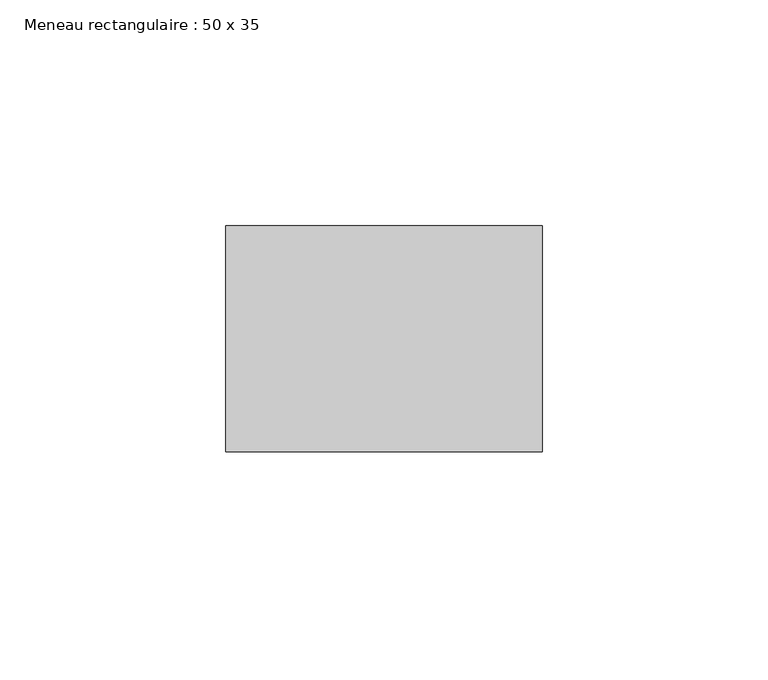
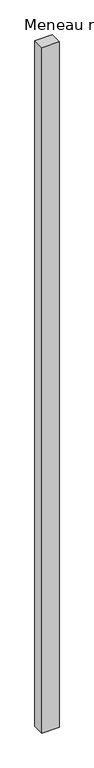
"""IFC4 building model written with IfcOpenShell, lengths in millimetres: member geometry, Meneau rectangulaire : 50 x 35."""

from ifc_helpers import new_model, si_unit, frame, origin, place, context, project, spatial, polyline, outline, extrude, source, transform, mapped, element, save


def meneau_rectangulaire_50_x_35_b1ab4bc9(model_context):
    return source(origin(), model_context, "Body", "SweptSolid", [
        extrude(outline(polyline([(0.0, 0.0), (0.0, -50.0), (-70.0, -50.0), (-70.0, 0.0), (0.0, 0.0)])), frame((0.0, 0.0, -2965.0), z_axis=(0.0, 0.0, 1.0), x_axis=(1.0, 0.0, 0.0)), (0.0, 0.0, 1.0), 2965.0),
    ])


if __name__ == "__main__":
    model = new_model("IFC4")
    model_context = context("Model", 3, world=origin())
    ifc_project = project(units=[si_unit("LENGTHUNIT", "METRE", prefix="MILLI")], contexts=[model_context])
    site = spatial("IfcSite", under=ifc_project)
    building = spatial("IfcBuilding", under=site)
    placement = place(None, origin())
    meneau_rectangulaire_50_x_35_shape = meneau_rectangulaire_50_x_35_b1ab4bc9(model_context)
    element("IfcMember", 1, ObjectType="Meneau rectangulaire : 50 x 35", at=placement, inside=building, context=model_context, shape_type="MappedRepresentation", body=[
        mapped(meneau_rectangulaire_50_x_35_shape, transform((0.0, 0.0, 0.0), x_axis=(1.0, 0.0, 0.0), y_axis=(0.0, 1.0, 0.0), z_axis=(0.0, 0.0, 1.0))),
    ])
    save(model, "model.ifc")
